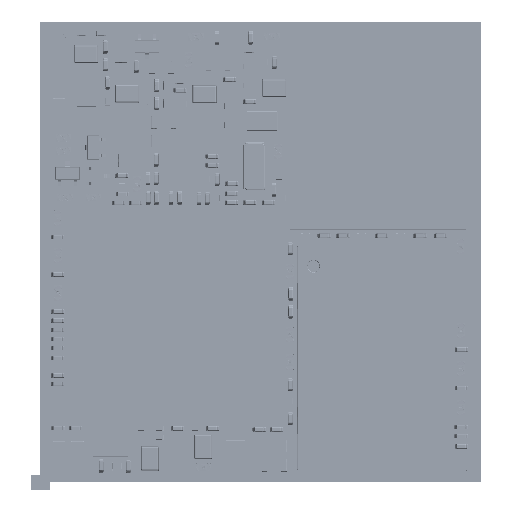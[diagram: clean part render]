
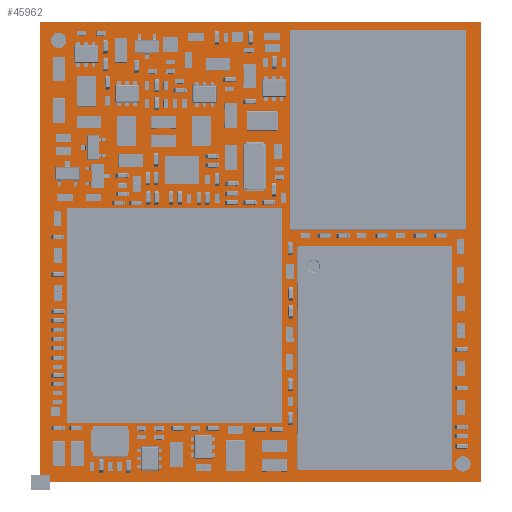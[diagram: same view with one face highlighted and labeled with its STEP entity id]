
A CAD part, top view. The second image highlights one B-rep face of the part: STEP entity #45962.
In plain terms, the highlighted planar face has unit normal (0, 0, 1).
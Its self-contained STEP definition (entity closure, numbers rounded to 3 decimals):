
#18526=CIRCLE($,#40720,0.5);
#18527=CIRCLE($,#40721,0.5);
#18530=CIRCLE($,#40726,0.5);
#18531=CIRCLE($,#40727,0.5);
#18534=CIRCLE($,#40732,0.489);
#18535=CIRCLE($,#40733,0.489);
#18538=CIRCLE($,#40738,0.488);
#18539=CIRCLE($,#40739,0.488);
#34369=FACE_OUTER_BOUND($,#37312,.F.);
#34375=FACE_OUTER_BOUND($,#37318,.F.);
#34379=FACE_OUTER_BOUND($,#37322,.F.);
#34383=FACE_OUTER_BOUND($,#37326,.T.);
#34387=FACE_OUTER_BOUND($,#37330,.T.);
#37312=EDGE_LOOP($,(#48897,#48898,#48899,#48900));
#37318=EDGE_LOOP($,(#48921,#48922));
#37322=EDGE_LOOP($,(#48933,#48934));
#37326=EDGE_LOOP($,(#48945,#48946));
#37330=EDGE_LOOP($,(#48957,#48958));
#40714=AXIS2_PLACEMENT_3D($,#83164,#73211,$);
#40720=AXIS2_PLACEMENT_3D($,#83176,#73211,$);
#40721=AXIS2_PLACEMENT_3D($,#83177,#73211,$);
#40726=AXIS2_PLACEMENT_3D($,#83188,#73211,$);
#40727=AXIS2_PLACEMENT_3D($,#83189,#73211,$);
#40732=AXIS2_PLACEMENT_3D($,#83200,#73211,$);
#40733=AXIS2_PLACEMENT_3D($,#83201,#73211,$);
#40738=AXIS2_PLACEMENT_3D($,#83212,#73211,$);
#40739=AXIS2_PLACEMENT_3D($,#83213,#73211,$);
#45084=PLANE($,#40714);
#45962=ADVANCED_FACE($,(#34369,#34375,#34379,#34383,#34387),#45084,.T.);
#48897=ORIENTED_EDGE($,*,*,#59010,.T.);
#48898=ORIENTED_EDGE($,*,*,#59011,.T.);
#48899=ORIENTED_EDGE($,*,*,#59012,.T.);
#48900=ORIENTED_EDGE($,*,*,#59013,.T.);
#48921=ORIENTED_EDGE($,*,*,#59023,.T.);
#48922=ORIENTED_EDGE($,*,*,#59024,.T.);
#48933=ORIENTED_EDGE($,*,*,#59030,.T.);
#48934=ORIENTED_EDGE($,*,*,#59031,.T.);
#48945=ORIENTED_EDGE($,*,*,#59037,.T.);
#48946=ORIENTED_EDGE($,*,*,#59038,.T.);
#48957=ORIENTED_EDGE($,*,*,#59044,.T.);
#48958=ORIENTED_EDGE($,*,*,#59045,.T.);
#59010=EDGE_CURVE($,#67457,#67458,#65767,.T.);
#59011=EDGE_CURVE($,#67458,#67459,#65768,.T.);
#59012=EDGE_CURVE($,#67459,#67460,#65769,.T.);
#59013=EDGE_CURVE($,#67460,#67457,#65770,.T.);
#59023=EDGE_CURVE($,#67467,#67468,#18526,.T.);
#59024=EDGE_CURVE($,#67468,#67467,#18527,.T.);
#59030=EDGE_CURVE($,#67473,#67474,#18530,.T.);
#59031=EDGE_CURVE($,#67474,#67473,#18531,.T.);
#59037=EDGE_CURVE($,#67479,#67480,#18534,.F.);
#59038=EDGE_CURVE($,#67480,#67479,#18535,.F.);
#59044=EDGE_CURVE($,#67485,#67486,#18538,.F.);
#59045=EDGE_CURVE($,#67486,#67485,#18539,.F.);
#64077=VECTOR($,#73214,28.75);
#64078=VECTOR($,#73215,30.);
#64079=VECTOR($,#73216,28.75);
#64080=VECTOR($,#73217,30.);
#65767=LINE($,#83163,#64077);
#65768=LINE($,#83164,#64078);
#65769=LINE($,#83165,#64079);
#65770=LINE($,#83166,#64080);
#67457=VERTEX_POINT($,#83163);
#67458=VERTEX_POINT($,#83164);
#67459=VERTEX_POINT($,#83165);
#67460=VERTEX_POINT($,#83166);
#67467=VERTEX_POINT($,#83173);
#67468=VERTEX_POINT($,#83174);
#67473=VERTEX_POINT($,#83185);
#67474=VERTEX_POINT($,#83186);
#67479=VERTEX_POINT($,#83197);
#67480=VERTEX_POINT($,#83198);
#67485=VERTEX_POINT($,#83209);
#67486=VERTEX_POINT($,#83210);
#73211=DIRECTION($,(0.,0.,1.));
#73214=DIRECTION($,(-1.,0.,0.));
#73215=DIRECTION($,(0.,1.,0.));
#73216=DIRECTION($,(1.,0.,0.));
#73217=DIRECTION($,(0.,-1.,0.));
#83163=CARTESIAN_POINT('',(28.75,0.,0.));
#83164=CARTESIAN_POINT('',(0.,0.,0.));
#83165=CARTESIAN_POINT('',(0.,30.,0.));
#83166=CARTESIAN_POINT('',(28.75,30.,0.));
#83173=CARTESIAN_POINT('',(28.05,1.2,0.));
#83174=CARTESIAN_POINT('',(27.05,1.2,0.));
#83176=CARTESIAN_POINT('',(27.55,1.2,0.));
#83177=CARTESIAN_POINT('',(27.55,1.2,0.));
#83185=CARTESIAN_POINT('',(1.7,28.8,0.));
#83186=CARTESIAN_POINT('',(0.7,28.8,0.));
#83188=CARTESIAN_POINT('',(1.2,28.8,0.));
#83189=CARTESIAN_POINT('',(1.2,28.8,0.));
#83197=CARTESIAN_POINT('',(28.039,1.2,0.));
#83198=CARTESIAN_POINT('',(27.061,1.2,0.));
#83200=CARTESIAN_POINT('',(27.55,1.2,0.));
#83201=CARTESIAN_POINT('',(27.55,1.2,0.));
#83209=CARTESIAN_POINT('',(1.688,28.8,0.));
#83210=CARTESIAN_POINT('',(0.712,28.8,0.));
#83212=CARTESIAN_POINT('',(1.2,28.8,0.));
#83213=CARTESIAN_POINT('',(1.2,28.8,0.));
